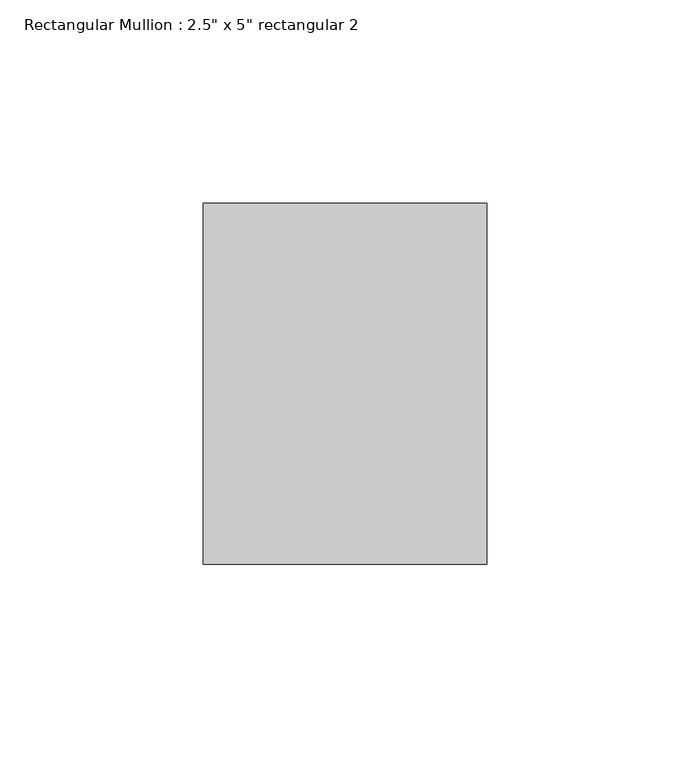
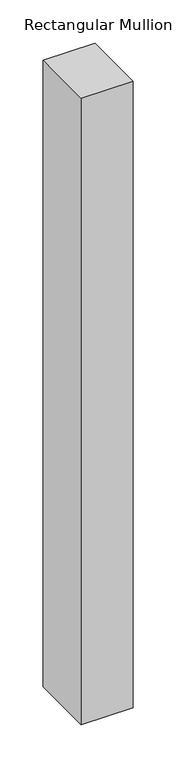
"""IFC4 building model written with IfcOpenShell, lengths in millimetres: member geometry."""

from ifc_helpers import new_model, si_unit, frame, origin, place, context, project, spatial, polyline, outline, extrude, source, transform, mapped, element, save


def member_55e5b55f(model_context):
    return source(origin(), model_context, "Body", "SweptSolid", [
        extrude(outline(polyline([(38.1, 44.45), (38.1, -44.45), (-31.75, -44.45), (-31.75, 44.45), (38.1, 44.45)])), frame((0.0, 0.0, -889.0), z_axis=(0.0, 0.0, 1.0), x_axis=(1.0, 0.0, 0.0)), (0.0, 0.0, 1.0), 889.0),
    ])


if __name__ == "__main__":
    model = new_model("IFC4")
    model_context = context("Model", 3, world=origin())
    ifc_project = project(units=[si_unit("LENGTHUNIT", "METRE", prefix="MILLI")], contexts=[model_context])
    site = spatial("IfcSite", under=ifc_project)
    building = spatial("IfcBuilding", under=site)
    placement = place(None, origin())
    member_shape = member_55e5b55f(model_context)
    element("IfcMember", 1, ObjectType="Rectangular Mullion : 2.5\" x 5\" rectangular 2", at=placement, inside=building, context=model_context, shape_type="MappedRepresentation", body=[
        mapped(member_shape, transform((0.0, 0.0, 0.0), x_axis=(1.0, 0.0, 0.0), y_axis=(0.0, 1.0, 0.0), z_axis=(0.0, 0.0, 1.0))),
    ])
    save(model, "model.ifc")
